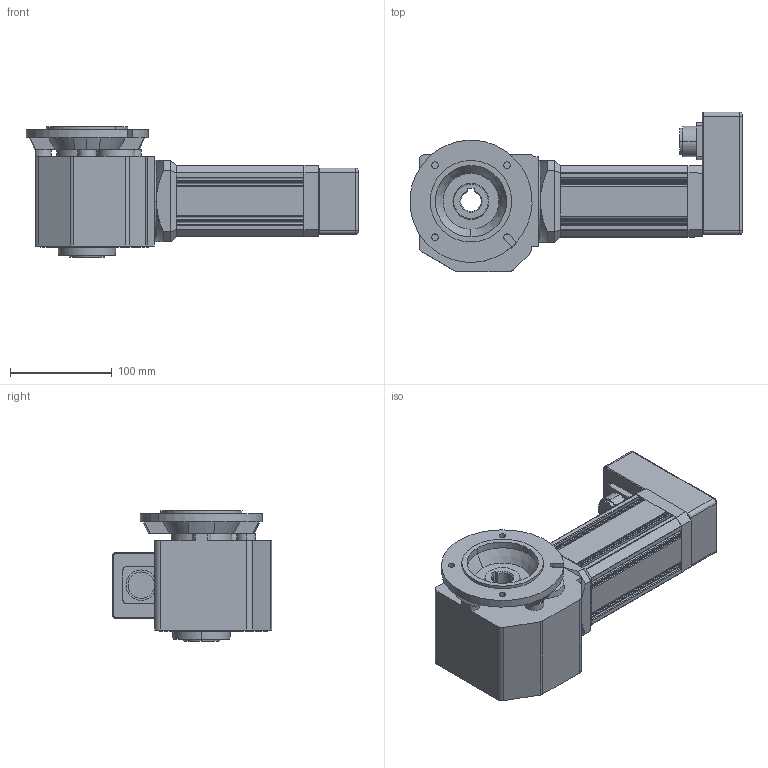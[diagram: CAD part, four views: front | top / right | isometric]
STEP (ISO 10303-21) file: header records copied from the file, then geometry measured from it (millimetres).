
FILE_DESCRIPTION(('OneSpaceDesigner STEP Export'),'2;1');
FILE_NAME('UECG313TH_ZBF45_F.stp','2008-06-27T 9:06:06',(''),(''),'OneSpace Designer STEP processor (Jan. 2003) for AP214(CD)(Solid Model)','OneSpace Designer 12.01D 09-Jul-2004 (C) CoCreate Software GmbH','');
FILE_SCHEMA(('AUTOMOTIVE_DESIGN_CC2 {1 2 10303 214 -1 1 5 1}'));
Length unit declared in the file: millimetre
Products named in the file (2): UECG313TH_ZBF45_F
Assembly tree (1 placements, depth 2):
  UECG313TH_ZBF45_F
    UECG313TH_ZBF45_F
Bounding box: 325.84 x 156.5 x 128 mm (x, y, z)
Volume: 2336801.5 mm3; surface area: 183860.9 mm2
Topology: 1 solids, 1 shells, 327 faces, 848 edges, 534 vertices
Faces by surface type: plane 166, cylinder 112, cone 22, bspline 19, torus 8
Entity records: 18057 total; most frequent: CARTESIAN_POINT 10519, ORIENTED_EDGE 1696, DIRECTION 1382, EDGE_CURVE 848, VERTEX_POINT 534, AXIS2_PLACEMENT_3D 463, VECTOR 456, LINE 456
